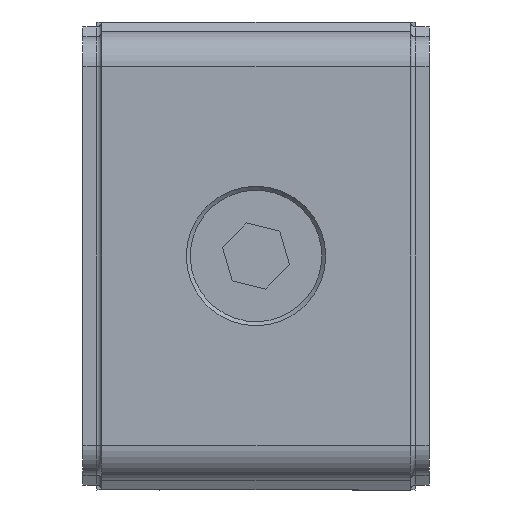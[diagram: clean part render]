
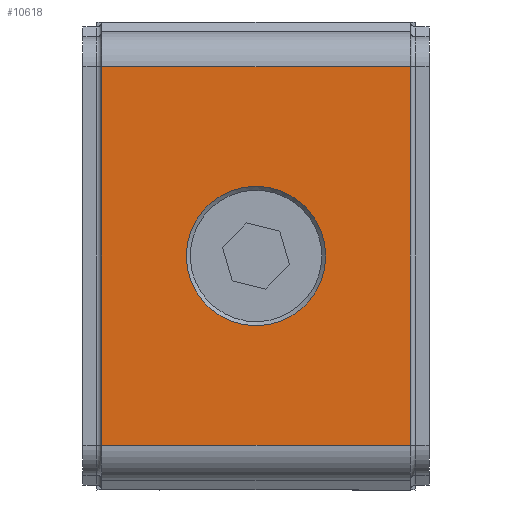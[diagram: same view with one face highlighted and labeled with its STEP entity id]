
A CAD part, front view. The second image highlights one B-rep face of the part: STEP entity #10618.
In plain terms, the highlighted planar face has unit normal (0, -1, 0).
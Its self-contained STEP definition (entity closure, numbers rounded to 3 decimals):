
#5846=CARTESIAN_POINT('',(7.,-26.0,0.0));
#5847=VERTEX_POINT('',#5846);
#5848=CARTESIAN_POINT('',(0.0,-26.0,0.0));
#5849=DIRECTION('',(0.0,1.0,0.0));
#5850=DIRECTION('',(1.0,0.0,0.0));
#5851=AXIS2_PLACEMENT_3D('',#5848,#5849,#5850);
#5852=CIRCLE('',#5851,7.);
#5853=EDGE_CURVE('',#5847,#5847,#5852,.T.);
#9828=CARTESIAN_POINT('',(15.5,-26.0,-19.));
#9829=VERTEX_POINT('',#9828);
#9860=CARTESIAN_POINT('',(15.5,-26.0,19.0));
#9861=VERTEX_POINT('',#9860);
#9862=CARTESIAN_POINT('',(15.5,-26.0,-19.));
#9863=DIRECTION('',(0.0,0.0,1.0));
#9864=VECTOR('',#9863,38.);
#9865=LINE('',#9862,#9864);
#9866=EDGE_CURVE('',#9829,#9861,#9865,.T.);
#10214=CARTESIAN_POINT('',(-15.5,-26.,-19.));
#10215=VERTEX_POINT('',#10214);
#10240=CARTESIAN_POINT('',(-15.5,-26.,19.0));
#10241=VERTEX_POINT('',#10240);
#10242=CARTESIAN_POINT('',(-15.5,-26.0,19.0));
#10243=DIRECTION('',(0.0,0.0,-1.0));
#10244=VECTOR('',#10243,38.);
#10245=LINE('',#10242,#10244);
#10246=EDGE_CURVE('',#10241,#10215,#10245,.T.);
#10583=CARTESIAN_POINT('',(15.5,-26.0,-19.0));
#10584=DIRECTION('',(-1.0,0.0,0.0));
#10585=VECTOR('',#10584,31.);
#10586=LINE('',#10583,#10585);
#10587=EDGE_CURVE('',#9829,#10215,#10586,.T.);
#10599=CARTESIAN_POINT('',(16.0,-26.0,0.0));
#10600=DIRECTION('',(0.0,-1.0,0.0));
#10601=DIRECTION('',(0.0,0.0,-1.0));
#10602=AXIS2_PLACEMENT_3D('',#10599,#10600,#10601);
#10603=PLANE('',#10602);
#10604=ORIENTED_EDGE('',*,*,#9866,.T.);
#10605=CARTESIAN_POINT('',(-15.5,-26.0,19.0));
#10606=DIRECTION('',(1.0,0.0,0.0));
#10607=VECTOR('',#10606,31.0);
#10608=LINE('',#10605,#10607);
#10609=EDGE_CURVE('',#10241,#9861,#10608,.T.);
#10610=ORIENTED_EDGE('',*,*,#10609,.F.);
#10611=ORIENTED_EDGE('',*,*,#10246,.T.);
#10612=ORIENTED_EDGE('',*,*,#10587,.F.);
#10613=EDGE_LOOP('',(#10604,#10610,#10611,#10612));
#10614=FACE_OUTER_BOUND('',#10613,.T.);
#10615=ORIENTED_EDGE('',*,*,#5853,.T.);
#10616=EDGE_LOOP('',(#10615));
#10617=FACE_BOUND('',#10616,.T.);
#10618=ADVANCED_FACE('',(#10614,#10617),#10603,.T.);
